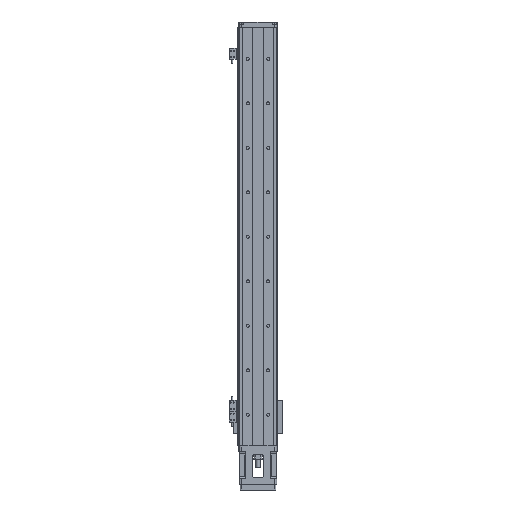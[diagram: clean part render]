
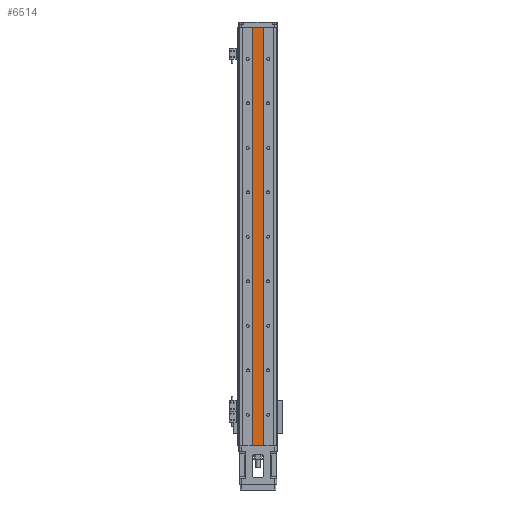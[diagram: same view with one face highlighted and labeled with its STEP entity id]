
A CAD part, front view. The second image highlights one B-rep face of the part: STEP entity #6514.
In plain terms, the highlighted planar face has unit normal (0, -1, 0).
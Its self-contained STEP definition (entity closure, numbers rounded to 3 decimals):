
#1776 = VECTOR ( 'NONE', #19343, 1000. ) ;
#2103 = EDGE_LOOP ( 'NONE', ( #45424, #28446, #15899, #15418 ) ) ;
#2671 = LINE ( 'NONE', #29020, #29522 ) ;
#4266 = LINE ( 'NONE', #43284, #1776 ) ;
#6514 = ADVANCED_FACE ( 'NONE', ( #45714 ), #7329, .F. ) ;
#7329 = PLANE ( 'NONE',  #15829 ) ;
#7958 = LINE ( 'NONE', #34182, #49147 ) ;
#11756 = VERTEX_POINT ( 'NONE', #47645 ) ;
#15131 = CARTESIAN_POINT ( 'NONE',  ( -12.269, -13.462, 940. ) ) ;
#15418 = ORIENTED_EDGE ( 'NONE', *, *, #44918, .F. ) ;
#15637 = CARTESIAN_POINT ( 'NONE',  ( -12.269, -13.462, 940. ) ) ;
#15829 = AXIS2_PLACEMENT_3D ( 'NONE', #15131, #26878, #43087 ) ;
#15899 = ORIENTED_EDGE ( 'NONE', *, *, #34364, .F. ) ;
#19343 = DIRECTION ( 'NONE',  ( 0., 0., -1. ) ) ;
#20573 = VERTEX_POINT ( 'NONE', #49890 ) ;
#22008 = CARTESIAN_POINT ( 'NONE',  ( -12.269, -13.462, 0. ) ) ;
#22459 = EDGE_CURVE ( 'NONE', #28769, #11756, #4266, .T. ) ;
#26689 = DIRECTION ( 'NONE',  ( 1., 0., 0. ) ) ;
#26878 = DIRECTION ( 'NONE',  ( 0., 1., 0. ) ) ;
#28065 = CARTESIAN_POINT ( 'NONE',  ( 11.731, -13.462, 940. ) ) ;
#28446 = ORIENTED_EDGE ( 'NONE', *, *, #45315, .F. ) ;
#28543 = LINE ( 'NONE', #22008, #44027 ) ;
#28769 = VERTEX_POINT ( 'NONE', #28065 ) ;
#29020 = CARTESIAN_POINT ( 'NONE',  ( -12.269, -13.462, 940. ) ) ;
#29522 = VECTOR ( 'NONE', #37017, 1000. ) ;
#30206 = DIRECTION ( 'NONE',  ( -1., 0., 0. ) ) ;
#34182 = CARTESIAN_POINT ( 'NONE',  ( -12.269, -13.462, 940. ) ) ;
#34364 = EDGE_CURVE ( 'NONE', #20573, #49934, #2671, .T. ) ;
#37017 = DIRECTION ( 'NONE',  ( 0., 0., 1. ) ) ;
#43087 = DIRECTION ( 'NONE',  ( 0., 0., 1. ) ) ;
#43284 = CARTESIAN_POINT ( 'NONE',  ( 11.731, -13.462, 940. ) ) ;
#44027 = VECTOR ( 'NONE', #30206, 1000. ) ;
#44918 = EDGE_CURVE ( 'NONE', #11756, #20573, #28543, .T. ) ;
#45315 = EDGE_CURVE ( 'NONE', #49934, #28769, #7958, .T. ) ;
#45424 = ORIENTED_EDGE ( 'NONE', *, *, #22459, .F. ) ;
#45714 = FACE_OUTER_BOUND ( 'NONE', #2103, .T. ) ;
#47645 = CARTESIAN_POINT ( 'NONE',  ( 11.731, -13.462, 0. ) ) ;
#49147 = VECTOR ( 'NONE', #26689, 1000. ) ;
#49890 = CARTESIAN_POINT ( 'NONE',  ( -12.269, -13.462, 0. ) ) ;
#49934 = VERTEX_POINT ( 'NONE', #15637 ) ;
